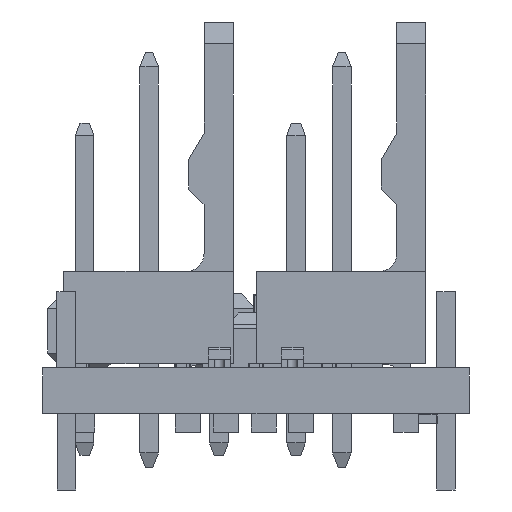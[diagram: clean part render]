
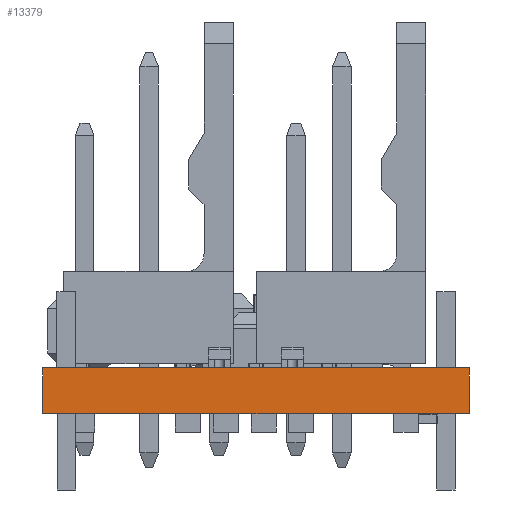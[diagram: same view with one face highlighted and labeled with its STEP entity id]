
A CAD part, left-side view. The second image highlights one B-rep face of the part: STEP entity #13379.
In plain terms, the highlighted planar face has unit normal (-1, 0, 0).
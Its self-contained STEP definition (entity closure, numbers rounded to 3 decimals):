
#734=PLANE('',#14381);
#1305=FACE_OUTER_BOUND('',#2085,.T.);
#2085=EDGE_LOOP('',(#9132,#9133,#9134,#9135));
#2990=LINE('',#18997,#4319);
#2998=LINE('',#19012,#4327);
#2999=LINE('',#19014,#4328);
#3000=LINE('',#19015,#4329);
#4319=VECTOR('',#15605,10.);
#4327=VECTOR('',#15617,10.);
#4328=VECTOR('',#15620,10.);
#4329=VECTOR('',#15621,10.);
#5936=VERTEX_POINT('',#18994);
#5937=VERTEX_POINT('',#18996);
#5941=VERTEX_POINT('',#19008);
#5942=VERTEX_POINT('',#19010);
#7183=EDGE_CURVE('',#5936,#5937,#2990,.T.);
#7191=EDGE_CURVE('',#5941,#5942,#2998,.T.);
#7192=EDGE_CURVE('',#5936,#5941,#2999,.T.);
#7193=EDGE_CURVE('',#5937,#5942,#3000,.T.);
#9132=ORIENTED_EDGE('',*,*,#7192,.T.);
#9133=ORIENTED_EDGE('',*,*,#7191,.T.);
#9134=ORIENTED_EDGE('',*,*,#7193,.F.);
#9135=ORIENTED_EDGE('',*,*,#7183,.F.);
#13379=ADVANCED_FACE('',(#1305),#734,.T.);
#14381=AXIS2_PLACEMENT_3D('',#19013,#15618,#15619);
#15605=DIRECTION('',(0.,0.,1.));
#15617=DIRECTION('',(0.,0.,1.));
#15618=DIRECTION('center_axis',(-1.,0.,0.));
#15619=DIRECTION('ref_axis',(0.,-1.,0.));
#15620=DIRECTION('',(0.,-1.,0.));
#15621=DIRECTION('',(0.,-1.,0.));
#18994=CARTESIAN_POINT('',(0.2,14.8,0.));
#18996=CARTESIAN_POINT('',(0.2,14.8,1.57));
#18997=CARTESIAN_POINT('',(0.2,14.8,0.));
#19008=CARTESIAN_POINT('',(0.2,0.2,0.));
#19010=CARTESIAN_POINT('',(0.2,0.2,1.57));
#19012=CARTESIAN_POINT('',(0.2,0.2,0.));
#19013=CARTESIAN_POINT('Origin',(0.2,14.8,0.));
#19014=CARTESIAN_POINT('',(0.2,14.8,0.));
#19015=CARTESIAN_POINT('',(0.2,14.8,1.57));
